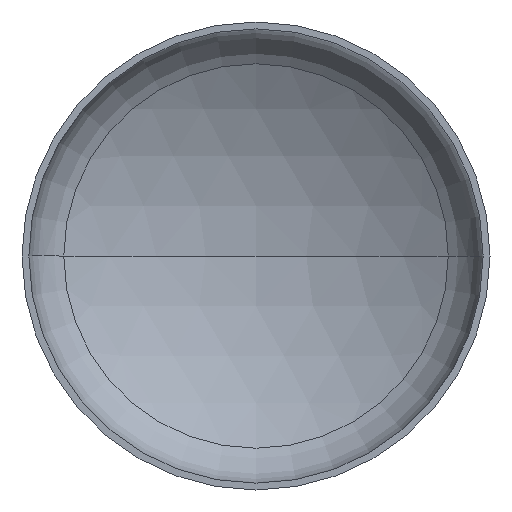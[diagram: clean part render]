
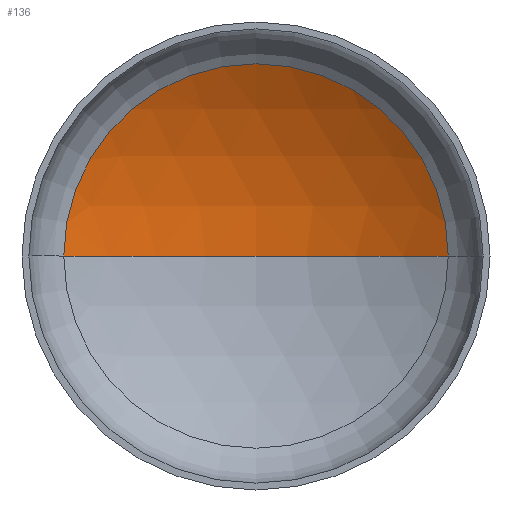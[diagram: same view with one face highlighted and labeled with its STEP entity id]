
A CAD part, front view. The second image highlights one B-rep face of the part: STEP entity #136.
In plain terms, the highlighted spherical face has radius 1200 mm.
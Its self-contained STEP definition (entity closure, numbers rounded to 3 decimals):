
#6 = CARTESIAN_POINT ( 'NONE',  ( 0., -762.404, 0. ) ) ;
#12 = ORIENTED_EDGE ( 'NONE', *, *, #130, .F. ) ;
#15 = EDGE_LOOP ( 'NONE', ( #12, #24, #197 ) ) ;
#18 = DIRECTION ( 'NONE',  ( 1., 0., 0. ) ) ;
#20 = DIRECTION ( 'NONE',  ( -1., 0., 0. ) ) ;
#24 = ORIENTED_EDGE ( 'NONE', *, *, #122, .T. ) ;
#35 = AXIS2_PLACEMENT_3D ( 'NONE', #6, #212, #213 ) ;
#38 = VERTEX_POINT ( 'NONE', #289 ) ;
#47 = AXIS2_PLACEMENT_3D ( 'NONE', #183, #203, #205 ) ;
#48 = AXIS2_PLACEMENT_3D ( 'NONE', #301, #163, #20 ) ;
#51 = AXIS2_PLACEMENT_3D ( 'NONE', #274, #350, #18 ) ;
#104 = VERTEX_POINT ( 'NONE', #231 ) ;
#120 = EDGE_CURVE ( 'NONE', #104, #134, #171, .T. ) ;
#122 = EDGE_CURVE ( 'NONE', #38, #104, #411, .T. ) ;
#130 = EDGE_CURVE ( 'NONE', #38, #134, #356, .T. ) ;
#134 = VERTEX_POINT ( 'NONE', #305 ) ;
#136 = ADVANCED_FACE ( 'NONE', ( #162 ), #408, .F. ) ;
#162 = FACE_OUTER_BOUND ( 'NONE', #15, .T. ) ;
#163 = DIRECTION ( 'NONE',  ( 0., 0., -1. ) ) ;
#171 = CIRCLE ( 'NONE', #51, 616.082 ) ;
#183 = CARTESIAN_POINT ( 'NONE',  ( 0., -762.404, 0. ) ) ;
#197 = ORIENTED_EDGE ( 'NONE', *, *, #120, .T. ) ;
#203 = DIRECTION ( 'NONE',  ( 0., 0., 1. ) ) ;
#205 = DIRECTION ( 'NONE',  ( 1., 0., 0. ) ) ;
#212 = DIRECTION ( 'NONE',  ( 0., 0., -1. ) ) ;
#213 = DIRECTION ( 'NONE',  ( -1., 0., 0. ) ) ;
#231 = CARTESIAN_POINT ( 'NONE',  ( 616.082, 267.374, 0. ) ) ;
#274 = CARTESIAN_POINT ( 'NONE',  ( 0., 267.374, 0. ) ) ;
#289 = CARTESIAN_POINT ( 'NONE',  ( 0., 437.596, 0. ) ) ;
#301 = CARTESIAN_POINT ( 'NONE',  ( 0., -762.404, 0. ) ) ;
#305 = CARTESIAN_POINT ( 'NONE',  ( -616.082, 267.374, 0. ) ) ;
#350 = DIRECTION ( 'NONE',  ( 0., -1., 0. ) ) ;
#356 = CIRCLE ( 'NONE', #47, 1200. ) ;
#408 = SPHERICAL_SURFACE ( 'NONE', #35, 1200. ) ;
#411 = CIRCLE ( 'NONE', #48, 1200. ) ;
